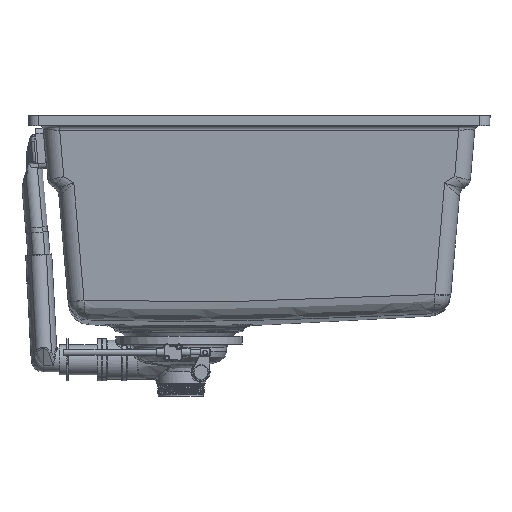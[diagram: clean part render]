
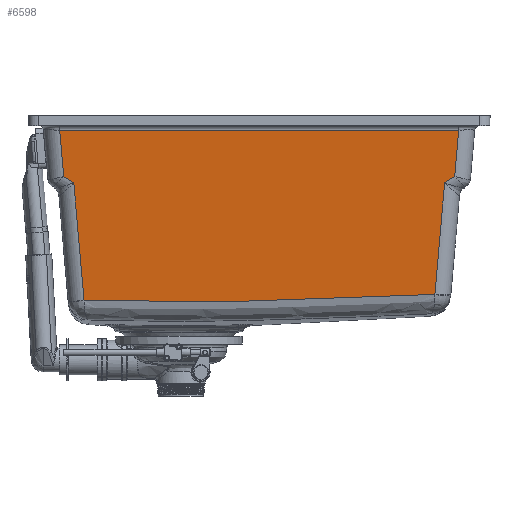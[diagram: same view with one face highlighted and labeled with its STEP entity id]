
A CAD part, left-side view. The second image highlights one B-rep face of the part: STEP entity #6598.
In plain terms, the highlighted planar face has unit normal (-0.996, 0, -0.087).
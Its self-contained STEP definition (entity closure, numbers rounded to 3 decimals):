
#6598=ADVANCED_FACE('',(#9348),#45168,.T.);
#9348=FACE_OUTER_BOUND('',#12065,.T.);
#12065=EDGE_LOOP('',(#23104,#23105,#23106,#23107,#23108,#23109,#23110,#23111,
#23112));
#23104=ORIENTED_EDGE('',*,*,#32109,.F.);
#23105=ORIENTED_EDGE('',*,*,#32104,.F.);
#23106=ORIENTED_EDGE('',*,*,#32103,.F.);
#23107=ORIENTED_EDGE('',*,*,#32132,.F.);
#23108=ORIENTED_EDGE('',*,*,#32133,.F.);
#23109=ORIENTED_EDGE('',*,*,#32096,.F.);
#23110=ORIENTED_EDGE('',*,*,#32095,.F.);
#23111=ORIENTED_EDGE('',*,*,#32128,.F.);
#23112=ORIENTED_EDGE('',*,*,#32134,.T.);
#32095=EDGE_CURVE('',#42732,#42700,#38075,.T.);
#32096=EDGE_CURVE('',#42700,#42707,#38076,.T.);
#32103=EDGE_CURVE('',#42733,#42715,#38079,.T.);
#32104=EDGE_CURVE('',#42715,#42720,#38080,.T.);
#32109=EDGE_CURVE('',#42720,#42735,#38083,.T.);
#32128=EDGE_CURVE('',#42749,#42732,#38097,.T.);
#32132=EDGE_CURVE('',#42712,#42733,#38099,.T.);
#32133=EDGE_CURVE('',#42707,#42712,#38100,.T.);
#32134=EDGE_CURVE('',#42749,#42735,#38101,.T.);
#38075=B_SPLINE_CURVE_WITH_KNOTS('',1,(#101524,#101525),.UNSPECIFIED.,.F.,
 .F.,(2,2),(0.,11.937),.UNSPECIFIED.);
#38076=B_SPLINE_CURVE_WITH_KNOTS('',1,(#101526,#101527),.UNSPECIFIED.,.F.,
 .F.,(2,2),(0.,111.985),.UNSPECIFIED.);
#38079=B_SPLINE_CURVE_WITH_KNOTS('',1,(#101544,#101545),.UNSPECIFIED.,.F.,
 .F.,(2,2),(0.,118.098),.UNSPECIFIED.);
#38080=B_SPLINE_CURVE_WITH_KNOTS('',1,(#101546,#101547),.UNSPECIFIED.,.F.,
 .F.,(2,2),(0.,11.937),.UNSPECIFIED.);
#38083=B_SPLINE_CURVE_WITH_KNOTS('',1,(#101558,#101559),.UNSPECIFIED.,.F.,
 .F.,(2,2),(0.,46.451),.UNSPECIFIED.);
#38097=B_SPLINE_CURVE_WITH_KNOTS('',1,(#101644,#101645),.UNSPECIFIED.,.F.,
 .F.,(2,2),(0.,46.451),.UNSPECIFIED.);
#38099=B_SPLINE_CURVE_WITH_KNOTS('',3,(#101656,#101657,#101658,#101659),
 .UNSPECIFIED.,.F.,.F.,(4,4),(-0.094,0.),.UNSPECIFIED.);
#38100=B_SPLINE_CURVE_WITH_KNOTS('',3,(#101660,#101661,#101662,#101663,
#101664,#101665,#101666,#101667,#101668,#101669,#101670,#101671,#101672,
#101673,#101674,#101675,#101676,#101677,#101678,#101679,#101680,#101681,
#101682,#101683,#101684,#101685,#101686,#101687,#101688,#101689,#101690,
#101691,#101692,#101693,#101694,#101695,#101696,#101697,#101698,#101699),
 .UNSPECIFIED.,.F.,.F.,(4,3,3,3,3,3,3,3,3,3,3,3,3,4),(-349.716,
-345.697,-302.113,-263.327,-247.047,-208.719,
-174.86,-174.839,-128.072,-87.428,-86.348,
-82.551,-43.174,0.),.UNSPECIFIED.);
#38101=B_SPLINE_CURVE_WITH_KNOTS('',1,(#101700,#101701),.UNSPECIFIED.,.F.,
 .F.,(2,2),(0.,397.619),.UNSPECIFIED.);
#42700=VERTEX_POINT('',#94416);
#42707=VERTEX_POINT('',#94423);
#42712=VERTEX_POINT('',#94428);
#42715=VERTEX_POINT('',#94431);
#42720=VERTEX_POINT('',#94436);
#42732=VERTEX_POINT('',#94448);
#42733=VERTEX_POINT('',#94449);
#42735=VERTEX_POINT('',#94451);
#42749=VERTEX_POINT('',#94465);
#45168=PLANE('',#48871);
#48871=AXIS2_PLACEMENT_3D('',#94070,#54164,$);
#54164=DIRECTION('',(-0.996,0.,-0.087));
#94070=CARTESIAN_POINT('',(-173.25,-238.764,-203.978));
#94416=CARTESIAN_POINT('',(-185.147,-184.849,-67.989));
#94423=CARTESIAN_POINT('',(-175.424,-175.126,-179.127));
#94428=CARTESIAN_POINT('',(-174.885,174.441,-185.287));
#94431=CARTESIAN_POINT('',(-185.147,184.704,-67.989));
#94436=CARTESIAN_POINT('',(-185.715,194.704,-61.495));
#94448=CARTESIAN_POINT('',(-185.715,-194.849,-61.495));
#94449=CARTESIAN_POINT('',(-174.893,174.45,-185.193));
#94451=CARTESIAN_POINT('',(-189.749,198.737,-15.395));
#94465=CARTESIAN_POINT('',(-189.749,-198.882,-15.395));
#101524=CARTESIAN_POINT('',(-185.715,-194.849,-61.495));
#101525=CARTESIAN_POINT('',(-185.147,-184.849,-67.989));
#101526=CARTESIAN_POINT('',(-185.147,-184.849,-67.989));
#101527=CARTESIAN_POINT('',(-175.424,-175.126,-179.127));
#101544=CARTESIAN_POINT('',(-174.893,174.45,-185.193));
#101545=CARTESIAN_POINT('',(-185.147,184.704,-67.989));
#101546=CARTESIAN_POINT('',(-185.147,184.704,-67.989));
#101547=CARTESIAN_POINT('',(-185.715,194.704,-61.495));
#101558=CARTESIAN_POINT('',(-185.715,194.704,-61.495));
#101559=CARTESIAN_POINT('',(-189.749,198.737,-15.395));
#101644=CARTESIAN_POINT('',(-189.749,-198.882,-15.395));
#101645=CARTESIAN_POINT('',(-185.715,-194.849,-61.495));
#101656=CARTESIAN_POINT('',(-174.885,174.441,-185.287));
#101657=CARTESIAN_POINT('',(-174.888,174.444,-185.256));
#101658=CARTESIAN_POINT('',(-174.891,174.447,-185.225));
#101659=CARTESIAN_POINT('',(-174.893,174.45,-185.193));
#101660=CARTESIAN_POINT('',(-175.424,-175.126,-179.127));
#101661=CARTESIAN_POINT('',(-175.419,-173.788,-179.187));
#101662=CARTESIAN_POINT('',(-175.414,-172.449,-179.247));
#101663=CARTESIAN_POINT('',(-175.408,-171.111,-179.307));
#101664=CARTESIAN_POINT('',(-175.351,-156.598,-179.958));
#101665=CARTESIAN_POINT('',(-175.295,-142.084,-180.599));
#101666=CARTESIAN_POINT('',(-175.241,-127.569,-181.217));
#101667=CARTESIAN_POINT('',(-175.193,-114.652,-181.767));
#101668=CARTESIAN_POINT('',(-175.147,-101.734,-182.294));
#101669=CARTESIAN_POINT('',(-175.103,-88.815,-182.794));
#101670=CARTESIAN_POINT('',(-175.085,-83.393,-183.003));
#101671=CARTESIAN_POINT('',(-175.067,-77.97,-183.209));
#101672=CARTESIAN_POINT('',(-175.049,-72.547,-183.408));
#101673=CARTESIAN_POINT('',(-175.008,-59.78,-183.878));
#101674=CARTESIAN_POINT('',(-174.97,-47.012,-184.318));
#101675=CARTESIAN_POINT('',(-174.935,-34.241,-184.714));
#101676=CARTESIAN_POINT('',(-174.905,-22.961,-185.064));
#101677=CARTESIAN_POINT('',(-174.877,-11.679,-185.381));
#101678=CARTESIAN_POINT('',(-174.853,-0.396,-185.655));
#101679=CARTESIAN_POINT('',(-174.853,-0.389,-185.655));
#101680=CARTESIAN_POINT('',(-174.853,-0.382,-185.656));
#101681=CARTESIAN_POINT('',(-174.853,-0.375,-185.656));
#101682=CARTESIAN_POINT('',(-174.82,15.21,-186.035));
#101683=CARTESIAN_POINT('',(-174.794,30.796,-186.323));
#101684=CARTESIAN_POINT('',(-174.779,46.384,-186.498));
#101685=CARTESIAN_POINT('',(-174.766,59.93,-186.65));
#101686=CARTESIAN_POINT('',(-174.76,73.478,-186.717));
#101687=CARTESIAN_POINT('',(-174.763,87.026,-186.684));
#101688=CARTESIAN_POINT('',(-174.763,87.386,-186.683));
#101689=CARTESIAN_POINT('',(-174.763,87.746,-186.682));
#101690=CARTESIAN_POINT('',(-174.763,88.107,-186.681));
#101691=CARTESIAN_POINT('',(-174.763,89.372,-186.677));
#101692=CARTESIAN_POINT('',(-174.764,90.638,-186.673));
#101693=CARTESIAN_POINT('',(-174.764,91.904,-186.668));
#101694=CARTESIAN_POINT('',(-174.769,105.03,-186.613));
#101695=CARTESIAN_POINT('',(-174.782,118.154,-186.469));
#101696=CARTESIAN_POINT('',(-174.801,131.278,-186.251));
#101697=CARTESIAN_POINT('',(-174.822,145.667,-186.011));
#101698=CARTESIAN_POINT('',(-174.85,160.054,-185.683));
#101699=CARTESIAN_POINT('',(-174.885,174.441,-185.287));
#101700=CARTESIAN_POINT('',(-189.749,-198.882,-15.395));
#101701=CARTESIAN_POINT('',(-189.749,198.737,-15.395));
